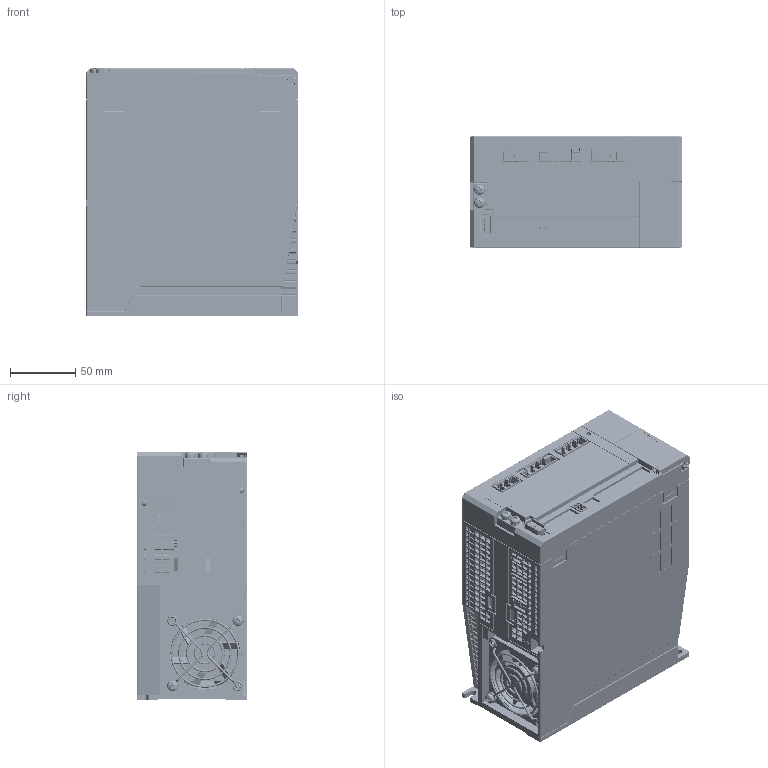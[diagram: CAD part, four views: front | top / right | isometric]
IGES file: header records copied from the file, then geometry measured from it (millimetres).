
Global section: file name: HNo Iges File Name specified; native system: AutoDesk Inventor R12.0; preprocessor: AutoDesk Inventor Iges Exporter R12.0; author: No Author specified; organization: No Organization specified; date: 20210415.162108; units: millimetre
Bounding box: 162 x 85 x 190.4 mm (x, y, z)
Volume: 2203053.1 mm3; surface area: 279961.4 mm2
Topology: 28 solids, 30 shells, 10847 faces, 30702 edges, 20261 vertices
Faces by surface type: plane 8362, revolution 1109, cylinder 599, bspline 340, cone 207, torus 136, sphere 94
Full cylindrical faces by diameter (mm): 0.64 x47, 1.267 x4, 1.6 x8, 2 x2, 2.693 x6, 3 x6, 3.4 x4, 3.621 x13, 3.8 x1, 4 x15, 4.33 x1, 6 x5, 8 x11, 10 x2, 30 x1
